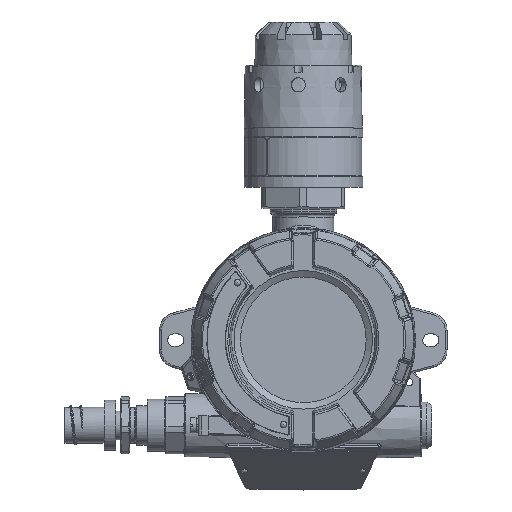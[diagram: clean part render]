
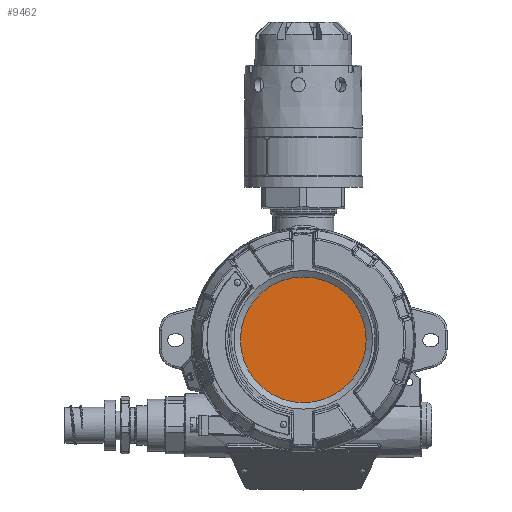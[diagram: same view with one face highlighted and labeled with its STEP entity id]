
A CAD part, top view. The second image highlights one B-rep face of the part: STEP entity #9462.
In plain terms, the highlighted planar face has unit normal (0, 0, 1).
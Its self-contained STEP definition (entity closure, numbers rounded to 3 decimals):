
#9462=ADVANCED_FACE('',(#51876),#51878,.T.);
#51876=FACE_BOUND('',#51877,.T.);
#51877=EDGE_LOOP('',(#66872));
#51878=PLANE('',#51879);
#51879=AXIS2_PLACEMENT_3D('',#51880,#51881,#51882);
#51880=CARTESIAN_POINT('',(0.,0.,100.));
#51881=DIRECTION('',(0.,0.,1.));
#51882=DIRECTION('',(1.,0.,0.));
#66872=ORIENTED_EDGE('',*,*,#72122,.T.);
#72122=EDGE_CURVE('',#77361,#77361,#77362,.T.);
#77361=VERTEX_POINT('',#106405);
#77362=CIRCLE('',#106406,52.);
#106405=CARTESIAN_POINT('',(52.,0.,100.));
#106406=AXIS2_PLACEMENT_3D('',#106407,#106408,#106409);
#106407=CARTESIAN_POINT('',(0.,0.,100.));
#106408=DIRECTION('',(0.,0.,1.));
#106409=DIRECTION('',(1.,0.,0.));
